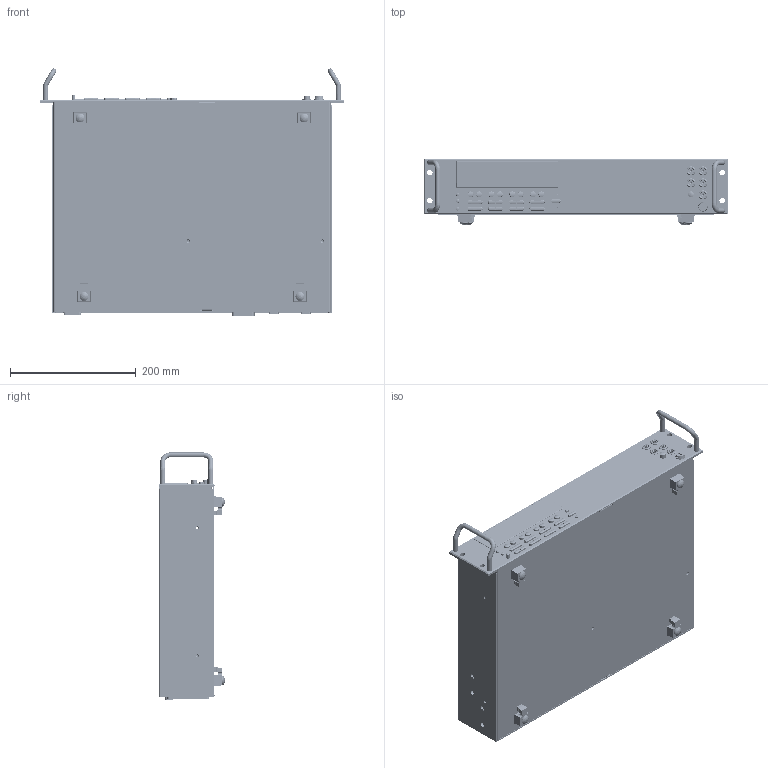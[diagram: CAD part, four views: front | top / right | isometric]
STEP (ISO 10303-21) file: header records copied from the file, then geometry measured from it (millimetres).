
FILE_DESCRIPTION((''),'2;1');
FILE_NAME('2750_ASM','2016-01-25T',('jpeters'),('Keithley Instruments'),'CREO PARAMETRIC BY PTC INC, 2014440','CREO PARAMETRIC BY PTC INC, 2014440','');
FILE_SCHEMA(('CONFIG_CONTROL_DESIGN'));
Length unit declared in the file: inch
Products named in the file (38): 2750-301; 2750-303; PM-1-1; 704-313; 2750-305; BJ-14-SHELL; BJ-14-PIN; BJ-14_ASM; HH-30-7; FH-40; 2750-310; 2750-307; 2750-FRONT-PANEL_ASM; 2700-318; 2750-132; CS-736-4; CS-612-8; CS-1066-1; CS-612-1; 2750-130_ASM; 2750-CARD-CAGE_ASM; CS-1027-1; CS-792; CS-507; 2700-319; 2750-100_ASM; 2750-309; 2750-314; 2750-316; 2750-122; CS-1066-2; 2750-120_ASM; 2750-316_ASM; 2750-313; 428-319; FE-6; GR-55-1; 2750_ASM
Assembly tree (58 placements, depth 4):
  2750_ASM
    2750-301
    2750-303
    PM-1-1
    704-313
    2750-FRONT-PANEL_ASM
      2750-305
      BJ-14_ASM  x7
        BJ-14-SHELL
        BJ-14-PIN
      HH-30-7  x2
      FH-40
      2750-310
      2750-307
    2750-CARD-CAGE_ASM
      2700-318
      2750-130_ASM
        2750-132
        CS-736-4  x2
        CS-612-8  x2
        CS-1066-1
        CS-612-1  x2
    2750-100_ASM
      CS-1027-1  x2
      CS-792
      CS-507
      2700-319
    2750-309
    2750-314
    2750-316_ASM
      2750-316
      2750-120_ASM
        2750-122
        CS-736-4  x3
        CS-1066-2
        CS-612-1
    2750-313
    428-319  x4
    FE-6  x4
    GR-55-1
Bounding box: 482.6 x 104.52 x 392.55 mm (x, y, z)
Volume: 1610896.6 mm3; surface area: 1506727.5 mm2
Topology: 97 solids, 97 shells, 8228 faces, 20798 edges, 13529 vertices
Faces by surface type: plane 5348, cylinder 2287, cone 329, bspline 128, torus 96, sphere 40
Entity records: 181339 total; most frequent: CARTESIAN_POINT 41966, DIRECTION 28820, ORIENTED_EDGE 28292, EDGE_CURVE 14146, VECTOR 9660, LINE 9660, AXIS2_PLACEMENT_3D 9580, VERTEX_POINT 9202
